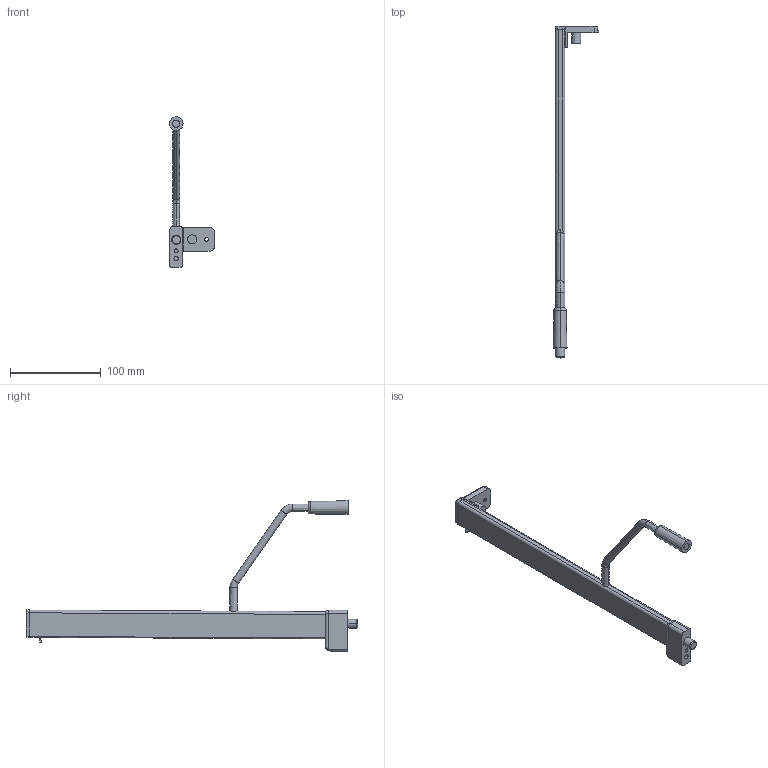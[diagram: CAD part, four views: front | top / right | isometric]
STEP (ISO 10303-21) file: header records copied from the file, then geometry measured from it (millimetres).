
FILE_DESCRIPTION (( 'STEP AP214' ), '1' );
FILE_NAME ('_2S_REL_7606_NL350_LI_Frontstütze.step', '2010-07-01T14:42:03', ( 'grass' ), ( '' ), 'SwSTEP 2.0', 'SolidWorks 2009', '' );
FILE_SCHEMA (( 'AUTOMOTIVE_DESIGN' ));
Length unit declared in the file: millimetre
Products named in the file (1): _2S_REL_7606_NL350_LI_Frontstütze
Bounding box: 49.75 x 365.5 x 165.5 mm (x, y, z)
Volume: 137840.1 mm3; surface area: 39764.2 mm2
Topology: 2 solids, 2 shells, 142 faces, 337 edges, 203 vertices
Faces by surface type: cylinder 60, plane 46, bspline 16, torus 12, cone 6, sphere 2
Entity records: 5241 total; most frequent: CARTESIAN_POINT 2069, ORIENTED_EDGE 670, DIRECTION 647, EDGE_CURVE 335, AXIS2_PLACEMENT_3D 247, VERTEX_POINT 203, LINE 153, VECTOR 153
